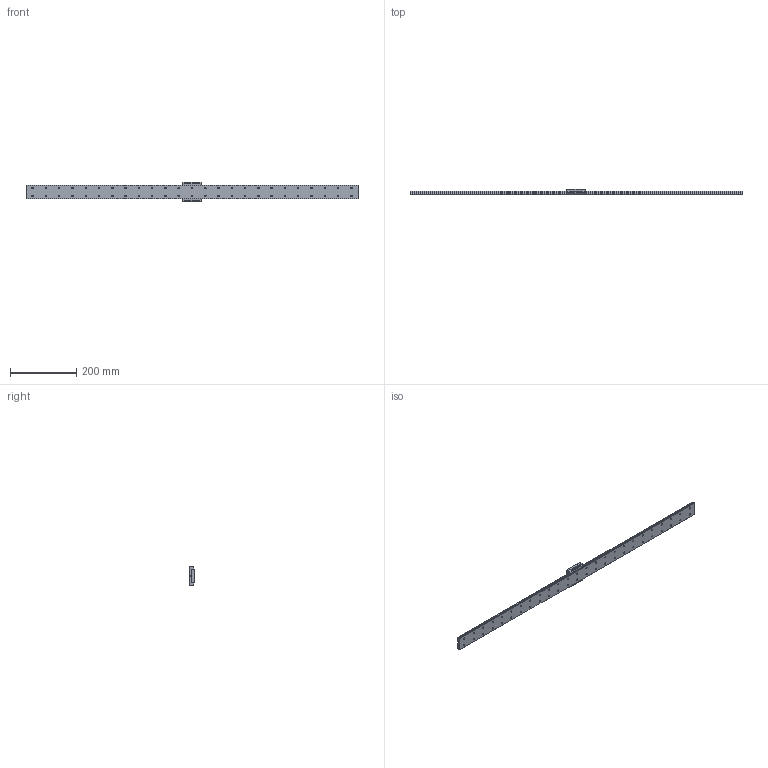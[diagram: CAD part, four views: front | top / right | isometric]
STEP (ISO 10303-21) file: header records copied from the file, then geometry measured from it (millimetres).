
FILE_DESCRIPTION( ( '' ), '1' );
FILE_NAME( 'C:/Users/v3-771-32344/Documents/Website 2016/STEP/SRS15WM1UU1000200472.25000.stp', '2016-11-10T13:17:27', ( '' ), ( '' ), ' ', ' ', ' ' );
FILE_SCHEMA( ( 'CONFIG_CONTROL_DESIGN' ) );
Length unit declared in the file: millimetre
Products named in the file (2): 1; 2
Bounding box: 1000 x 16 x 60 mm (x, y, z)
Volume: 394451.3 mm3; surface area: 120595.9 mm2
Topology: 2 solids, 2 shells, 404 faces, 1012 edges, 660 vertices
Faces by surface type: cylinder 246, plane 142, cone 16
Entity records: 12492 total; most frequent: DIRECTION 2316, CARTESIAN_POINT 2070, ORIENTED_EDGE 2008, EDGE_CURVE 1004, AXIS2_PLACEMENT_3D 906, VERTEX_POINT 660, EDGE_LOOP 560, LINE 504
